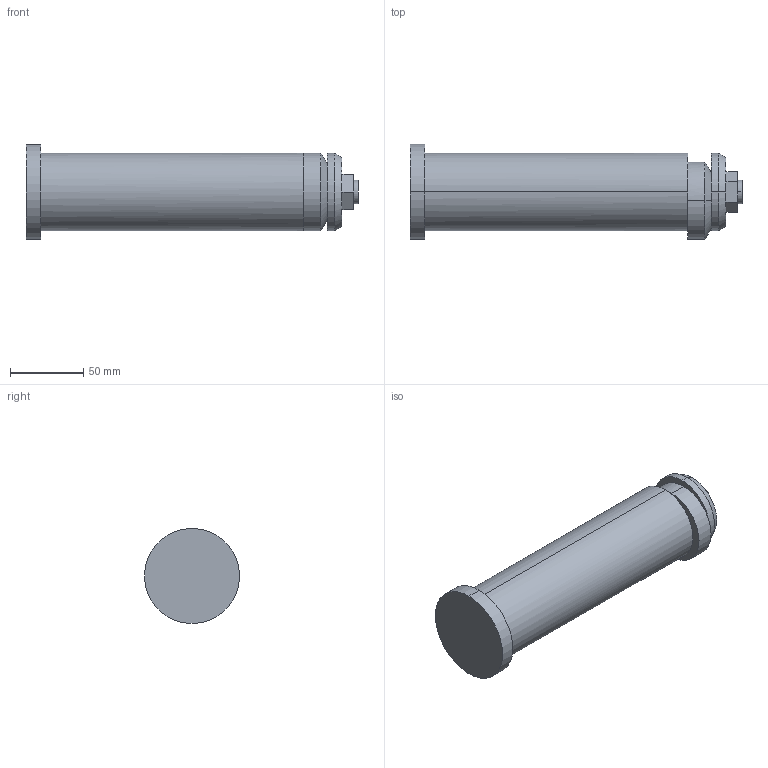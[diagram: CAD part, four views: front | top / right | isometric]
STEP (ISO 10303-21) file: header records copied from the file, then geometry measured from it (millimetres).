
FILE_DESCRIPTION(('CATIA V5 STEP Exchange'),'2;1');
FILE_NAME('C:\Users\Raffaele\Desktop\3D X SITO CF\PERNI -STAFFE SOLLEVAMENTO\395PSF\395PSF-7\STEP-2.03\395PSF-7.stp','2019-07-03T09:03:42+00:00',('none'),('none'),'CATIA Version 5 Release 20 GA (IN-10)','CATIA V5 STEP AP203','none');
FILE_SCHEMA(('CONFIG_CONTROL_DESIGN'));
Length unit declared in the file: millimetre
Products named in the file (1): 395PSF-7
Bounding box: 227 x 65 x 65 mm (x, y, z)
Volume: 476467.2 mm3; surface area: 49725.7 mm2
Topology: 1 solids, 2 shells, 34 faces, 100 edges, 74 vertices
Faces by surface type: plane 16, cylinder 14, cone 4
Entity records: 1355 total; most frequent: CARTESIAN_POINT 410, ORIENTED_EDGE 200, DIRECTION 153, EDGE_CURVE 100, AXIS2_PLACEMENT_3D 84, VERTEX_POINT 74, CIRCLE 49, EDGE_LOOP 40
